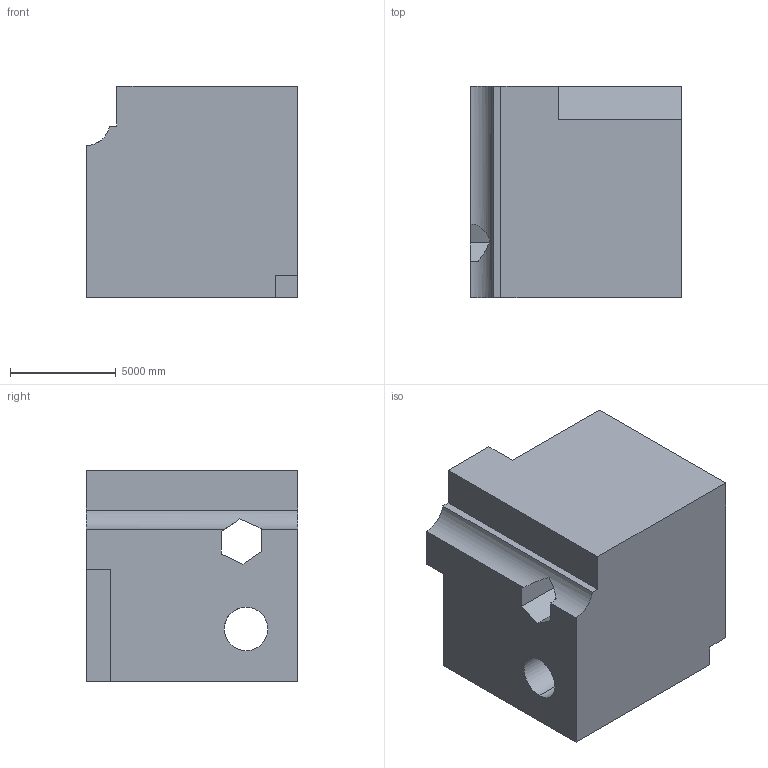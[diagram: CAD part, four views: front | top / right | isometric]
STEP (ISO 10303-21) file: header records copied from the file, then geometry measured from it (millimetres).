
FILE_DESCRIPTION (( 'STEP AP203' ), '1' );
FILE_NAME ('853.STEP', '2022-07-29T13:43:41', ( 'user' ), ( '' ), 'SwSTEP 2.0', 'SolidWorks 2021', '' );
FILE_SCHEMA (( 'CONFIG_CONTROL_DESIGN' ));
Length unit declared in the file: centimetre
Products named in the file (1): 853
Bounding box: 10000 x 10000 x 10000 mm (x, y, z)
Volume: 863145139285.8 mm3; surface area: 694722578.3 mm2
Topology: 1 solids, 1 shells, 30 faces, 93 edges, 62 vertices
Faces by surface type: plane 26, cylinder 4
Entity records: 1113 total; most frequent: CARTESIAN_POINT 192, ORIENTED_EDGE 186, DIRECTION 164, EDGE_CURVE 93, LINE 80, VECTOR 80, VERTEX_POINT 62, AXIS2_PLACEMENT_3D 42
